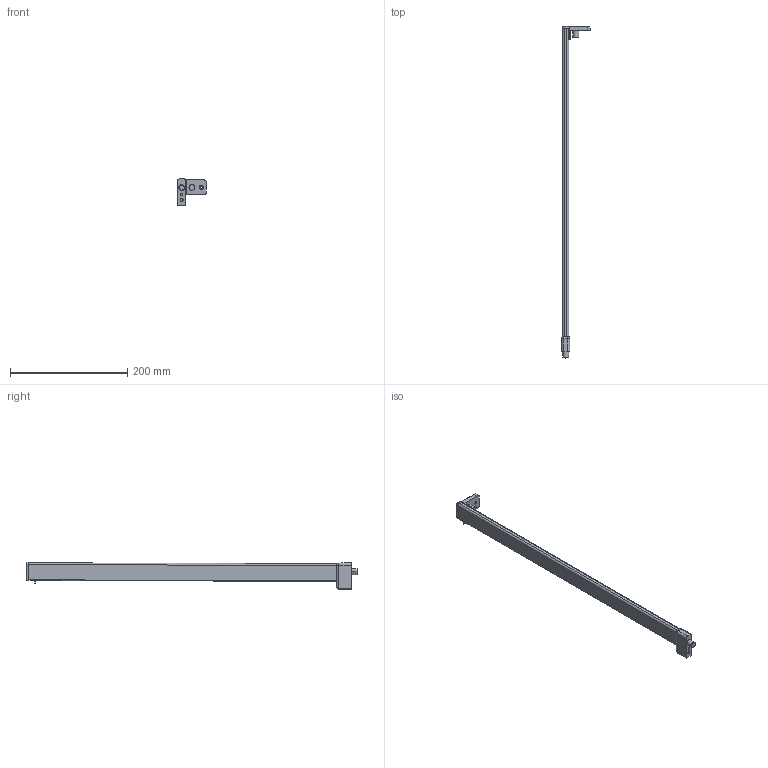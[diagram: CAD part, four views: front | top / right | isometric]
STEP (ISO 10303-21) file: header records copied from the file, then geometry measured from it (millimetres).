
FILE_DESCRIPTION (( 'STEP AP214' ), '1' );
FILE_NAME ('_2S_REL_7606_NL550_LI.step', '2010-07-01T14:41:41', ( 'grass' ), ( '' ), 'SwSTEP 2.0', 'SolidWorks 2009', '' );
FILE_SCHEMA (( 'AUTOMOTIVE_DESIGN' ));
Length unit declared in the file: millimetre
Products named in the file (1): _2S_REL_7606_NL550_LI
Bounding box: 49.25 x 565.5 x 45.4 mm (x, y, z)
Volume: 185128.6 mm3; surface area: 49202.6 mm2
Topology: 2 solids, 2 shells, 120 faces, 292 edges, 178 vertices
Faces by surface type: cylinder 58, plane 40, bspline 10, torus 6, cone 4, sphere 2
Entity records: 4528 total; most frequent: CARTESIAN_POINT 1803, ORIENTED_EDGE 580, DIRECTION 546, EDGE_CURVE 290, AXIS2_PLACEMENT_3D 203, VERTEX_POINT 178, LINE 140, VECTOR 140
